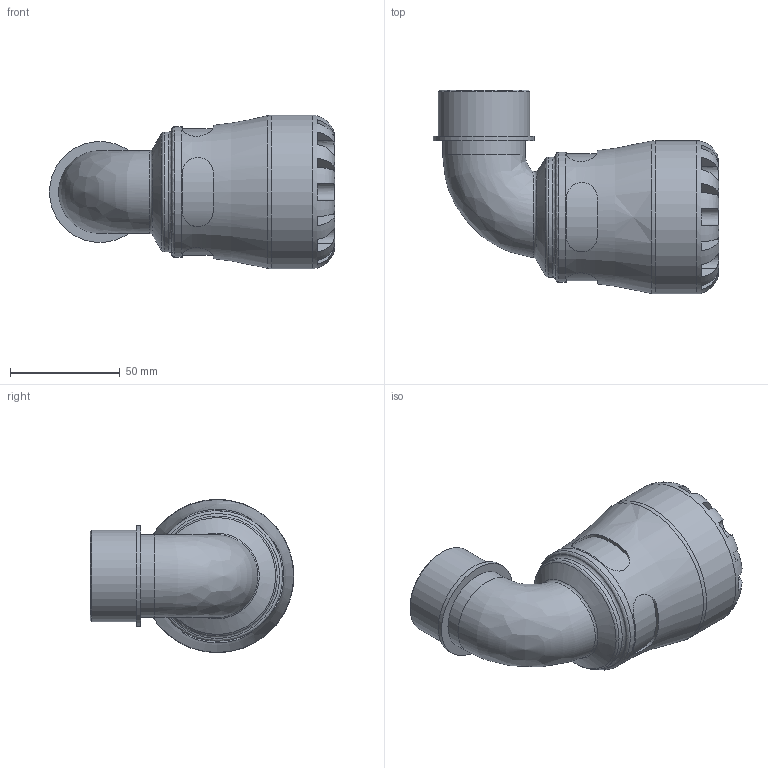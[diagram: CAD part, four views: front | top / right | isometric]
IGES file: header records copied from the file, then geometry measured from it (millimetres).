
Global section: file name: 108500040013_198500040013.ipt; native system: Autodesk Inventor 2015; preprocessor: unknown; author: KIM; date: 20170122.115001; units: millimetre
Bounding box: 130.05 x 93 x 70 mm (x, y, z)
Volume: 199307.6 mm3; surface area: 48577.4 mm2
Topology: 1 solids, 1 shells, 110 faces, 278 edges, 176 vertices
Faces by surface type: plane 61, revolution 26, cylinder 18, bspline 4, cone 1
Full cylindrical faces by diameter (mm): 37.719 x1, 41.91 x1, 46.101 x1, 54.6 x1, 59.5 x1, 70 x1
